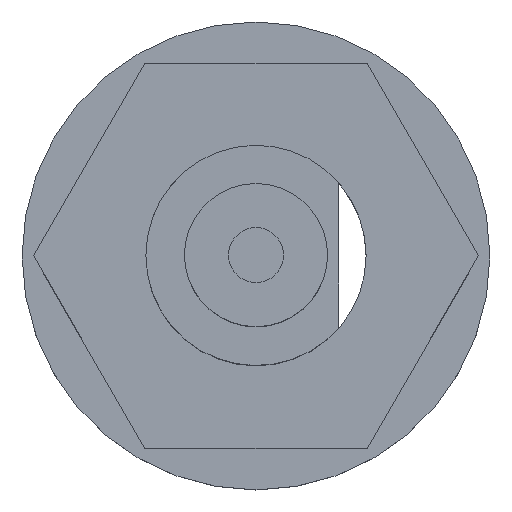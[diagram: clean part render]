
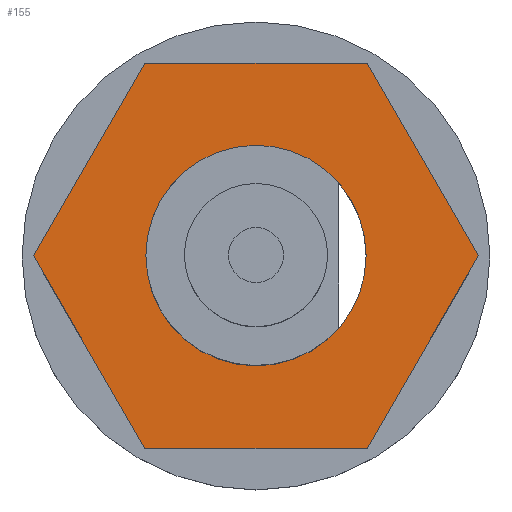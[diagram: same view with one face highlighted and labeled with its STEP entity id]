
A CAD part, top view. The second image highlights one B-rep face of the part: STEP entity #155.
In plain terms, the highlighted planar face has unit normal (0, 0, 1) as drawn and (-1, 0, 0) by its records, which use the part's own axes.
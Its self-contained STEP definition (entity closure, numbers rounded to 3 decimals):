
#155 = ADVANCED_FACE ( 'NONE', ( #668, #663 ), #662, .T. ) ;
#156 = EDGE_LOOP ( 'NONE', ( #157, #163, #219, #215, #211, #212 ) ) ;
#157 = ORIENTED_EDGE ( 'NONE', *, *, #158, .T. ) ;
#158 = EDGE_CURVE ( 'NONE', #159, #160, #723, .T. ) ;
#159 = VERTEX_POINT ( 'NONE', #719 ) ;
#160 = VERTEX_POINT ( 'NONE', #718 ) ;
#163 = ORIENTED_EDGE ( 'NONE', *, *, #164, .T. ) ;
#164 = EDGE_CURVE ( 'NONE', #160, #165, #711, .T. ) ;
#165 = VERTEX_POINT ( 'NONE', #707 ) ;
#167 = EDGE_CURVE ( 'NONE', #223, #220, #706, .T. ) ;
#168 = EDGE_CURVE ( 'NONE', #218, #217, #701, .T. ) ;
#207 = EDGE_CURVE ( 'NONE', #214, #159, #767, .T. ) ;
#208 = ORIENTED_EDGE ( 'NONE', *, *, #167, .F. ) ;
#209 = EDGE_LOOP ( 'NONE', ( #210, #208 ) ) ;
#210 = ORIENTED_EDGE ( 'NONE', *, *, #225, .F. ) ;
#211 = ORIENTED_EDGE ( 'NONE', *, *, #213, .T. ) ;
#212 = ORIENTED_EDGE ( 'NONE', *, *, #207, .T. ) ;
#213 = EDGE_CURVE ( 'NONE', #217, #214, #763, .T. ) ;
#214 = VERTEX_POINT ( 'NONE', #759 ) ;
#215 = ORIENTED_EDGE ( 'NONE', *, *, #168, .T. ) ;
#216 = EDGE_CURVE ( 'NONE', #165, #218, #823, .T. ) ;
#217 = VERTEX_POINT ( 'NONE', #819 ) ;
#218 = VERTEX_POINT ( 'NONE', #818 ) ;
#219 = ORIENTED_EDGE ( 'NONE', *, *, #216, .T. ) ;
#220 = VERTEX_POINT ( 'NONE', #817 ) ;
#223 = VERTEX_POINT ( 'NONE', #816 ) ;
#225 = EDGE_CURVE ( 'NONE', #220, #223, #815, .T. ) ;
#660 = CARTESIAN_POINT ( 'NONE',  ( -8.5, 0., -4.041 ) ) ;
#661 = AXIS2_PLACEMENT_3D ( 'NONE', #660, #725, #724 ) ;
#662 = PLANE ( 'NONE',  #661 ) ;
#663 = FACE_BOUND ( 'NONE', #209, .T. ) ;
#668 = FACE_OUTER_BOUND ( 'NONE', #156, .T. ) ;
#698 = DIRECTION ( 'NONE',  ( 0., 0.866, 0.5 ) ) ;
#699 = VECTOR ( 'NONE', #698, 1000. ) ;
#700 = CARTESIAN_POINT ( 'NONE',  ( -8.5, -3.5, 2.021 ) ) ;
#701 = LINE ( 'NONE', #700, #699 ) ;
#702 = DIRECTION ( 'NONE',  ( 0., 0., 1. ) ) ;
#703 = DIRECTION ( 'NONE',  ( -1., 0., 0. ) ) ;
#704 = CARTESIAN_POINT ( 'NONE',  ( -8.5, 0., 0. ) ) ;
#705 = AXIS2_PLACEMENT_3D ( 'NONE', #704, #703, #702 ) ;
#706 = CIRCLE ( 'NONE', #705, 2. ) ;
#707 = CARTESIAN_POINT ( 'NONE',  ( -8.5, -3.5, -2.021 ) ) ;
#708 = DIRECTION ( 'NONE',  ( 0., -0.866, 0.5 ) ) ;
#709 = VECTOR ( 'NONE', #708, 1000. ) ;
#710 = CARTESIAN_POINT ( 'NONE',  ( -8.5, 0., -4.041 ) ) ;
#711 = LINE ( 'NONE', #710, #709 ) ;
#718 = CARTESIAN_POINT ( 'NONE',  ( -8.5, 0., -4.041 ) ) ;
#719 = CARTESIAN_POINT ( 'NONE',  ( -8.5, 3.5, -2.021 ) ) ;
#720 = DIRECTION ( 'NONE',  ( 0., -0.866, -0.5 ) ) ;
#721 = VECTOR ( 'NONE', #720, 1000. ) ;
#722 = CARTESIAN_POINT ( 'NONE',  ( -8.5, 3.5, -2.021 ) ) ;
#723 = LINE ( 'NONE', #722, #721 ) ;
#724 = DIRECTION ( 'NONE',  ( 0., 0., 1. ) ) ;
#725 = DIRECTION ( 'NONE',  ( -1., 0., 0. ) ) ;
#759 = CARTESIAN_POINT ( 'NONE',  ( -8.5, 3.5, 2.021 ) ) ;
#760 = DIRECTION ( 'NONE',  ( 0., 0.866, -0.5 ) ) ;
#761 = VECTOR ( 'NONE', #760, 1000. ) ;
#762 = CARTESIAN_POINT ( 'NONE',  ( -8.5, 0., 4.041 ) ) ;
#763 = LINE ( 'NONE', #762, #761 ) ;
#764 = DIRECTION ( 'NONE',  ( 0., 0., -1. ) ) ;
#765 = VECTOR ( 'NONE', #764, 1000. ) ;
#766 = CARTESIAN_POINT ( 'NONE',  ( -8.5, 3.5, 2.021 ) ) ;
#767 = LINE ( 'NONE', #766, #765 ) ;
#811 = DIRECTION ( 'NONE',  ( 0., 0., 1. ) ) ;
#812 = DIRECTION ( 'NONE',  ( -1., 0., 0. ) ) ;
#813 = CARTESIAN_POINT ( 'NONE',  ( -8.5, 0., 0. ) ) ;
#814 = AXIS2_PLACEMENT_3D ( 'NONE', #813, #812, #811 ) ;
#815 = CIRCLE ( 'NONE', #814, 2. ) ;
#816 = CARTESIAN_POINT ( 'NONE',  ( -8.5, 0., 2. ) ) ;
#817 = CARTESIAN_POINT ( 'NONE',  ( -8.5, 0., -2. ) ) ;
#818 = CARTESIAN_POINT ( 'NONE',  ( -8.5, -3.5, 2.021 ) ) ;
#819 = CARTESIAN_POINT ( 'NONE',  ( -8.5, 0., 4.041 ) ) ;
#820 = DIRECTION ( 'NONE',  ( 0., 0., 1. ) ) ;
#821 = VECTOR ( 'NONE', #820, 1000. ) ;
#822 = CARTESIAN_POINT ( 'NONE',  ( -8.5, -3.5, -2.021 ) ) ;
#823 = LINE ( 'NONE', #822, #821 ) ;
